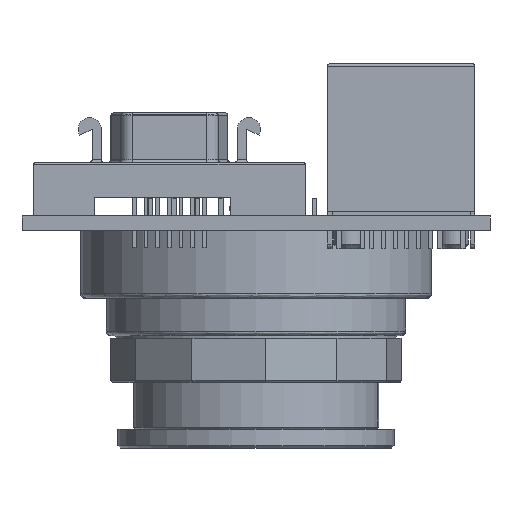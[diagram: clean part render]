
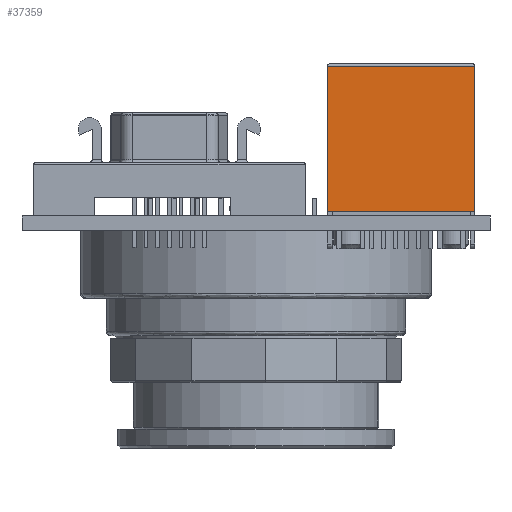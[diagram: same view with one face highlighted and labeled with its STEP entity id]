
A CAD part, front view. The second image highlights one B-rep face of the part: STEP entity #37359.
In plain terms, the highlighted planar face has unit normal (0, -1, 0).
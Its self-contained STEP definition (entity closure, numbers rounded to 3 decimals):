
#2085 = ORIENTED_EDGE ( 'NONE', *, *, #38389, .F. ) ;
#2513 = CARTESIAN_POINT ( 'NONE',  ( -8.001, -6.604, 15.748 ) ) ;
#6620 = DIRECTION ( 'NONE',  ( 1., 0., 0. ) ) ;
#7298 = DIRECTION ( 'NONE',  ( 1., 0., 0. ) ) ;
#7603 = CARTESIAN_POINT ( 'NONE',  ( -8.001, -6.604, 12.954 ) ) ;
#8623 = ORIENTED_EDGE ( 'NONE', *, *, #52653, .T. ) ;
#10667 = ORIENTED_EDGE ( 'NONE', *, *, #17396, .F. ) ;
#11725 = DIRECTION ( 'NONE',  ( -1., 0., 0. ) ) ;
#13647 = CARTESIAN_POINT ( 'NONE',  ( 8.001, -6.604, 12.954 ) ) ;
#16103 = VECTOR ( 'NONE', #50355, 1000. ) ;
#16636 = LINE ( 'NONE', #13647, #16103 ) ;
#17396 = EDGE_CURVE ( 'NONE', #44399, #19068, #16636, .T. ) ;
#19068 = VERTEX_POINT ( 'NONE', #19085 ) ;
#19085 = CARTESIAN_POINT ( 'NONE',  ( 8.001, -6.604, 0. ) ) ;
#19631 = CARTESIAN_POINT ( 'NONE',  ( -8.001, -6.604, 12.954 ) ) ;
#21829 = VECTOR ( 'NONE', #48249, 1000. ) ;
#22240 = LINE ( 'NONE', #52383, #43948 ) ;
#23432 = EDGE_CURVE ( 'NONE', #26688, #35612, #33969, .T. ) ;
#23698 = PLANE ( 'NONE',  #48713 ) ;
#26210 = EDGE_LOOP ( 'NONE', ( #2085, #38244, #8623, #10667 ) ) ;
#26688 = VERTEX_POINT ( 'NONE', #45555 ) ;
#33969 = LINE ( 'NONE', #19631, #21829 ) ;
#35612 = VERTEX_POINT ( 'NONE', #51025 ) ;
#36199 = DIRECTION ( 'NONE',  ( 0., 1., 0. ) ) ;
#37359 = ADVANCED_FACE ( 'NONE', ( #48662 ), #23698, .F. ) ;
#38244 = ORIENTED_EDGE ( 'NONE', *, *, #23432, .T. ) ;
#38389 = EDGE_CURVE ( 'NONE', #26688, #44399, #42776, .T. ) ;
#42418 = CARTESIAN_POINT ( 'NONE',  ( 8.001, -6.604, 15.748 ) ) ;
#42776 = LINE ( 'NONE', #2513, #52256 ) ;
#43948 = VECTOR ( 'NONE', #7298, 1000. ) ;
#44399 = VERTEX_POINT ( 'NONE', #42418 ) ;
#45555 = CARTESIAN_POINT ( 'NONE',  ( -8.001, -6.604, 15.748 ) ) ;
#48249 = DIRECTION ( 'NONE',  ( 0., 0., -1. ) ) ;
#48662 = FACE_OUTER_BOUND ( 'NONE', #26210, .T. ) ;
#48713 = AXIS2_PLACEMENT_3D ( 'NONE', #7603, #36199, #11725 ) ;
#50355 = DIRECTION ( 'NONE',  ( 0., 0., -1. ) ) ;
#51025 = CARTESIAN_POINT ( 'NONE',  ( -8.001, -6.604, 0. ) ) ;
#52256 = VECTOR ( 'NONE', #6620, 1000. ) ;
#52383 = CARTESIAN_POINT ( 'NONE',  ( -8.001, -6.604, 0. ) ) ;
#52653 = EDGE_CURVE ( 'NONE', #35612, #19068, #22240, .T. ) ;
